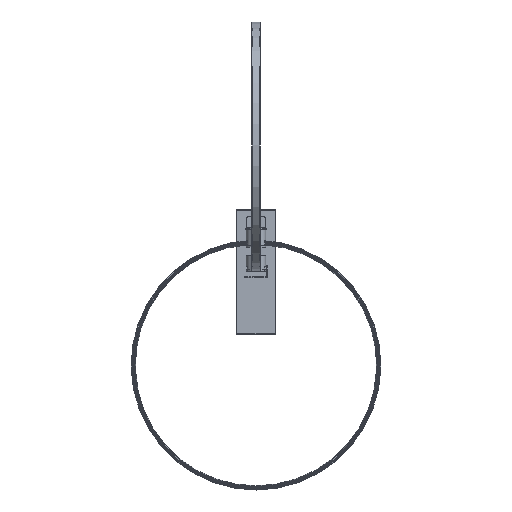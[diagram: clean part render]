
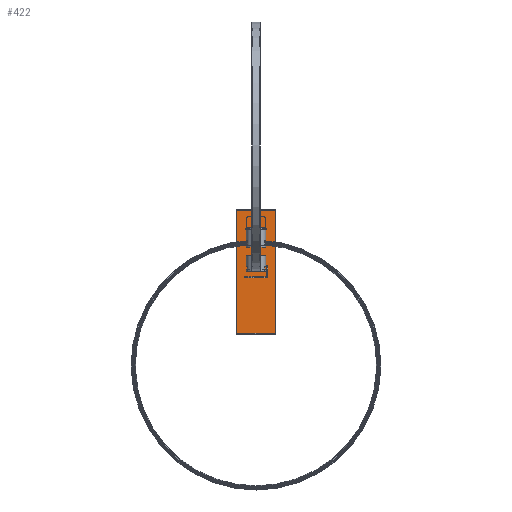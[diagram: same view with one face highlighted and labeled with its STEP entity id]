
A CAD part, front view. The second image highlights one B-rep face of the part: STEP entity #422.
In plain terms, the highlighted planar face has unit normal (0, -1, 0).
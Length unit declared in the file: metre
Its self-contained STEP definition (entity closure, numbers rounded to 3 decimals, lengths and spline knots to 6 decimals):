
#422 = ADVANCED_FACE( '', ( #606, #607, #608 ), #609, .T. );
#606 = FACE_BOUND( '', #1002, .T. );
#607 = FACE_BOUND( '', #1003, .T. );
#608 = FACE_OUTER_BOUND( '', #1004, .T. );
#609 = PLANE( '', #1005 );
#1002 = EDGE_LOOP( '', ( #1406, #1407, #1408, #1409 ) );
#1003 = EDGE_LOOP( '', ( #1410 ) );
#1004 = EDGE_LOOP( '', ( #1411, #1412, #1413, #1414 ) );
#1005 = AXIS2_PLACEMENT_3D( '', #1415, #1416, #1417 );
#1406 = ORIENTED_EDGE( '', *, *, #2862, .F. );
#1407 = ORIENTED_EDGE( '', *, *, #2863, .F. );
#1408 = ORIENTED_EDGE( '', *, *, #2864, .F. );
#1409 = ORIENTED_EDGE( '', *, *, #2865, .F. );
#1410 = ORIENTED_EDGE( '', *, *, #2866, .F. );
#1411 = ORIENTED_EDGE( '', *, *, #2867, .T. );
#1412 = ORIENTED_EDGE( '', *, *, #2868, .F. );
#1413 = ORIENTED_EDGE( '', *, *, #2869, .F. );
#1414 = ORIENTED_EDGE( '', *, *, #2870, .F. );
#1415 = CARTESIAN_POINT( '', ( -0.04, 0., -0.125 ) );
#1416 = DIRECTION( '', ( 0., -1., 0. ) );
#1417 = DIRECTION( '', ( 0., 0., -1. ) );
#2862 = EDGE_CURVE( '', #3328, #3329, #3330, .T. );
#2863 = EDGE_CURVE( '', #3331, #3328, #3332, .T. );
#2864 = EDGE_CURVE( '', #3333, #3331, #3334, .T. );
#2865 = EDGE_CURVE( '', #3329, #3333, #3335, .T. );
#2866 = EDGE_CURVE( '', #3336, #3336, #3337, .T. );
#2867 = EDGE_CURVE( '', #3338, #3339, #3340, .T. );
#2868 = EDGE_CURVE( '', #3341, #3339, #3342, .T. );
#2869 = EDGE_CURVE( '', #3343, #3341, #3344, .T. );
#2870 = EDGE_CURVE( '', #3338, #3343, #3345, .T. );
#3328 = VERTEX_POINT( '', #4097 );
#3329 = VERTEX_POINT( '', #4098 );
#3330 = LINE( '', #4099, #4100 );
#3331 = VERTEX_POINT( '', #4101 );
#3332 = LINE( '', #4102, #4103 );
#3333 = VERTEX_POINT( '', #4104 );
#3334 = LINE( '', #4105, #4106 );
#3335 = LINE( '', #4107, #4108 );
#3336 = VERTEX_POINT( '', #4109 );
#3337 = CIRCLE( '', #4110, 0.005 );
#3338 = VERTEX_POINT( '', #4111 );
#3339 = VERTEX_POINT( '', #4112 );
#3340 = LINE( '', #4113, #4114 );
#3341 = VERTEX_POINT( '', #4115 );
#3342 = LINE( '', #4116, #4117 );
#3343 = VERTEX_POINT( '', #4118 );
#3344 = LINE( '', #4119, #4120 );
#3345 = LINE( '', #4121, #4122 );
#4097 = CARTESIAN_POINT( '', ( -0.0205, 0., 0.08725 ) );
#4098 = CARTESIAN_POINT( '', ( -0.0205, 0., 0.08475 ) );
#4099 = CARTESIAN_POINT( '', ( -0.0205, 0., 0.08725 ) );
#4100 = VECTOR( '', #5812, 1. );
#4101 = CARTESIAN_POINT( '', ( 0.0205, 0., 0.08725 ) );
#4102 = CARTESIAN_POINT( '', ( 0.0205, 0., 0.08725 ) );
#4103 = VECTOR( '', #5813, 1. );
#4104 = CARTESIAN_POINT( '', ( 0.0205, 0., 0.08475 ) );
#4105 = CARTESIAN_POINT( '', ( 0.0205, 0., 0.08475 ) );
#4106 = VECTOR( '', #5814, 1. );
#4107 = CARTESIAN_POINT( '', ( -0.0205, 0., 0.08475 ) );
#4108 = VECTOR( '', #5815, 1. );
#4109 = CARTESIAN_POINT( '', ( 0., 0., 0.095 ) );
#4110 = AXIS2_PLACEMENT_3D( '', #5816, #5817, #5818 );
#4111 = CARTESIAN_POINT( '', ( 0.0385, 0., 0.1235 ) );
#4112 = CARTESIAN_POINT( '', ( -0.0385, 0., 0.1235 ) );
#4113 = CARTESIAN_POINT( '', ( 0.0385, 0., 0.1235 ) );
#4114 = VECTOR( '', #5819, 1. );
#4115 = CARTESIAN_POINT( '', ( -0.0385, 0., -0.1235 ) );
#4116 = CARTESIAN_POINT( '', ( -0.0385, 0., -0.1235 ) );
#4117 = VECTOR( '', #5820, 1. );
#4118 = CARTESIAN_POINT( '', ( 0.0385, 0., -0.1235 ) );
#4119 = CARTESIAN_POINT( '', ( 0.0385, 0., -0.1235 ) );
#4120 = VECTOR( '', #5821, 1. );
#4121 = CARTESIAN_POINT( '', ( 0.0385, 0., 0.1235 ) );
#4122 = VECTOR( '', #5822, 1. );
#5812 = DIRECTION( '', ( 0., 0., -1. ) );
#5813 = DIRECTION( '', ( -1., 0., 0. ) );
#5814 = DIRECTION( '', ( 0., 0., 1. ) );
#5815 = DIRECTION( '', ( 1., 0., 0. ) );
#5816 = CARTESIAN_POINT( '', ( 0., 0., 0.1 ) );
#5817 = DIRECTION( '', ( 0., -1., 0. ) );
#5818 = DIRECTION( '', ( 0., 0., -1. ) );
#5819 = DIRECTION( '', ( -1., 0., 0. ) );
#5820 = DIRECTION( '', ( 0., 0., 1. ) );
#5821 = DIRECTION( '', ( -1., 0., 0. ) );
#5822 = DIRECTION( '', ( 0., 0., -1. ) );
